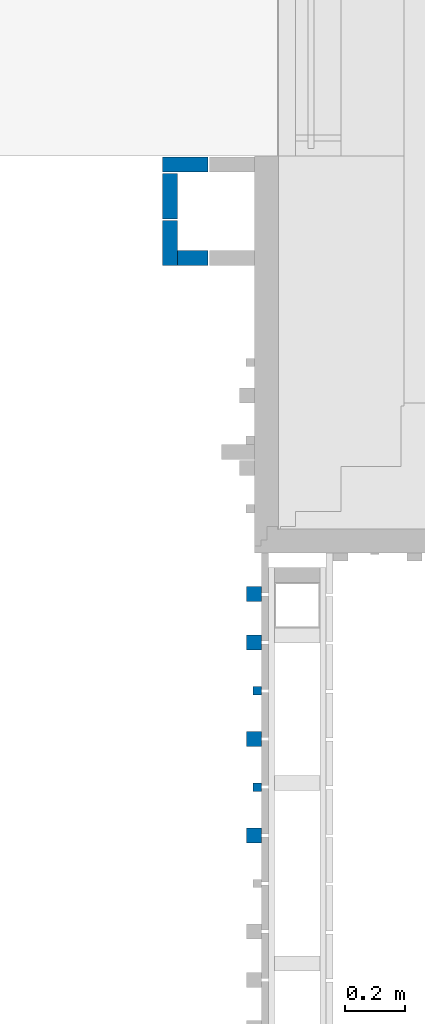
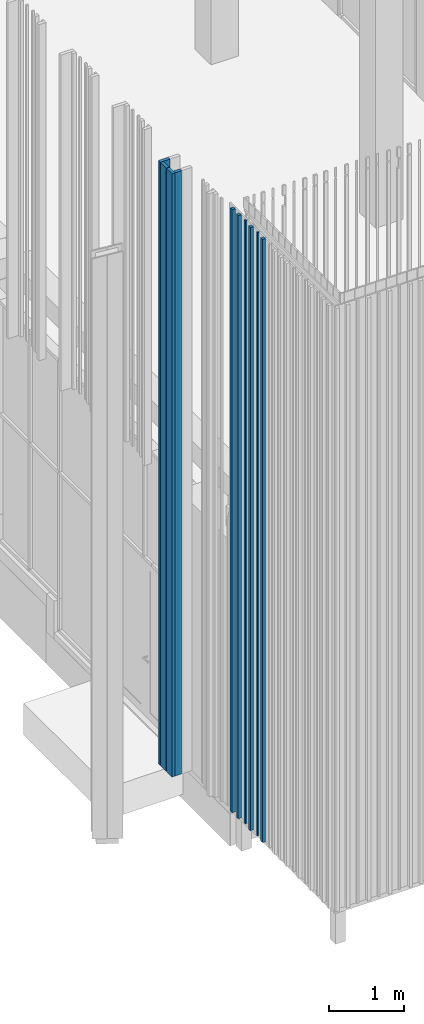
# One storey, part 9 of 390: 10 walls.
"""IFC2X3 building model written with IfcOpenShell, lengths in millimetres."""

from ifc_helpers import new_model, entity, si_unit, converted_unit, derived_unit, money_unit, direction, frame, origin_with_axes, origin_2d_with_axis, place, context, subcontext, project, spatial, rectangle, extrude, material, type_object, element, save


model = new_model("IFC2X3")

# Units and contexts
model_context = context("Model", 3, precision=1e-05, world=origin_with_axes(), true_north=direction((0.0, 1.0)))
body_context = subcontext(model_context, "Body", "Model", "MODEL_VIEW")
ifc_project = project(units=[si_unit("LENGTHUNIT", "METRE", prefix="MILLI"), si_unit("AREAUNIT", "SQUARE_METRE"), si_unit("VOLUMEUNIT", "CUBIC_METRE"), converted_unit("PLANEANGLEUNIT", "DEGREE", entity("IfcPlaneAngleMeasure", 0.0174532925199), si_unit("PLANEANGLEUNIT", "RADIAN"), dimensions=[0, 0, 0, 0, 0, 0, 0]), si_unit("SOLIDANGLEUNIT", "STERADIAN"), money_unit("EUR"), converted_unit("TIMEUNIT", "Year", entity("IfcTimeMeasure", 31556926.0), si_unit("TIMEUNIT", "SECOND"), dimensions=[0, 0, 1, 0, 0, 0, 0]), si_unit("MASSUNIT", "GRAM", prefix="KILO"), si_unit("THERMODYNAMICTEMPERATUREUNIT", "DEGREE_CELSIUS"), si_unit("LUMINOUSINTENSITYUNIT", "LUMEN"), si_unit("ENERGYUNIT", "JOULE", prefix="MEGA"), derived_unit("THERMALCONDUCTANCEUNIT", [(si_unit("POWERUNIT", "WATT"), 1), (si_unit("LENGTHUNIT", "METRE"), -1), (si_unit("THERMODYNAMICTEMPERATUREUNIT", "KELVIN"), -1)]), derived_unit("SPECIFICHEATCAPACITYUNIT", [(si_unit("ENERGYUNIT", "JOULE"), 1), (si_unit("MASSUNIT", "GRAM", prefix="KILO"), -1), (si_unit("THERMODYNAMICTEMPERATUREUNIT", "KELVIN"), -1)]), derived_unit("MASSDENSITYUNIT", [(si_unit("MASSUNIT", "GRAM", prefix="KILO"), 1), (si_unit("VOLUMEUNIT", "CUBIC_METRE"), -1)])], contexts=[model_context])

# Site, building, storey
site_placement = place(None, origin_with_axes())
site = spatial("IfcSite", under=ifc_project, at=site_placement, Name="Site", CompositionType="ELEMENT")
building_placement = place(site_placement, origin_with_axes())
building = spatial("IfcBuilding", under=site, at=building_placement, Name="Building", CompositionType="ELEMENT")
storey_placement = place(building_placement, origin_with_axes())
storey = spatial("IfcBuildingStorey", under=building, at=storey_placement, Name="1 korrus", CompositionType="ELEMENT", Elevation=0.0)

# Walls
ifc_material = material(Name="Site specified")
wall_type_1 = type_object("IfcWallType", Name="Puitfassaadi ribistik", PredefinedType="NOTDEFINED")
for number, where, z_axis, x_axis, name in (
    (1, (122410.999968, 44325.0001117, 100.000000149), (0.0, 0.0, 1.0), (-1.0, 0.0, 0.0), "Site specified"),
    (2, (122410.999918, 44645.0001117, 100.000000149), (0.0, 0.0, 1.0), (-1.0, 0.0, 0.0), "Site specified"),
    (3, (122410.999925, 44965.0001117, 100.000000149), (0.0, 0.0, 1.0), (-1.0, 0.0, 0.0), "Site specified"),
    (4, (122410.999925, 45127.0001117, 100.000000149), (0.0, 0.0, 1.0), (-1.0, 0.0, 0.0), "Site specified"),
):
    element("IfcWall", number, at=place(storey_placement, frame(where, z_axis=z_axis, x_axis=x_axis)), inside=storey, type_object=wall_type_1, material=ifc_material, Name=name, context=body_context, shape_type="SweptSolid", body=[
        extrude(rectangle(XDim=50.0, YDim=49.9999999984, at=origin_2d_with_axis()), origin_with_axes(), (0.0, 0.0, 1.0), 9764.99999985),
    ])
for number, where, z_axis, x_axis, name in (
    (5, (122421.999975, 44805.0001117, 100.000000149), (0.0, 0.0, 1.0), (-1.0, 0.0, 0.0), "Site specified"),
    (6, (122421.999968, 44485.0001117, 100.000000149), (0.0, 0.0, 1.0), (-1.0, 0.0, 0.0), "Site specified"),
):
    element("IfcWall", number, at=place(storey_placement, frame(where, z_axis=z_axis, x_axis=x_axis)), inside=storey, type_object=wall_type_1, material=ifc_material, Name=name, context=body_context, shape_type="SweptSolid", body=[
        extrude(rectangle(XDim=28.0, YDim=28.0, at=origin_2d_with_axis()), origin_with_axes(), (0.0, 0.0, 1.0), 9764.99999985),
    ])
wall_type_2 = type_object("IfcWallType", Name="Puitfassaadi ribisik", PredefinedType="NOTDEFINED")
wall_placement = place(storey_placement, frame((122207.999968, 46242.0000168, 100.000000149), z_axis=(0.0, 0.0, 1.0), x_axis=(1.92421249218e-07, 1.0, 0.0)))
element("IfcWall", 7, at=wall_placement, inside=storey, type_object=wall_type_2, material=ifc_material, Name="Site specified", context=body_context, shape_type="SweptSolid", body=[
    extrude(rectangle(XDim=50.0, YDim=100.000069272, at=origin_2d_with_axis()), origin_with_axes(), (0.0, 0.0, 1.0), 9764.99999475),
])
for number, where, z_axis, x_axis, name in (
    (8, (122132.999943, 46292.0000637, 100.000000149), (0.0, 0.0, 1.0), (-1.0, 1.92421320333e-07, 0.0), "Site specified"),
    (9, (122132.999973, 46447.0000637, 100.000000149), (0.0, 0.0, 1.0), (-1.0, 1.92421320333e-07, 0.0), "Site specified"),
    (10, (122182.999993, 46552.0000541, 100.000000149), (0.0, 0.0, 1.0), (1.92421249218e-07, 1.0, 0.0), "Site specified"),
):
    element("IfcWall", number, at=place(storey_placement, frame(where, z_axis=z_axis, x_axis=x_axis)), inside=storey, type_object=wall_type_2, material=ifc_material, Name=name, context=body_context, shape_type="SweptSolid", body=[
        extrude(rectangle(XDim=50.0, YDim=150.0, at=origin_2d_with_axis()), origin_with_axes(), (0.0, 0.0, 1.0), 9764.99999475),
    ])

save(model, "model.ifc")
